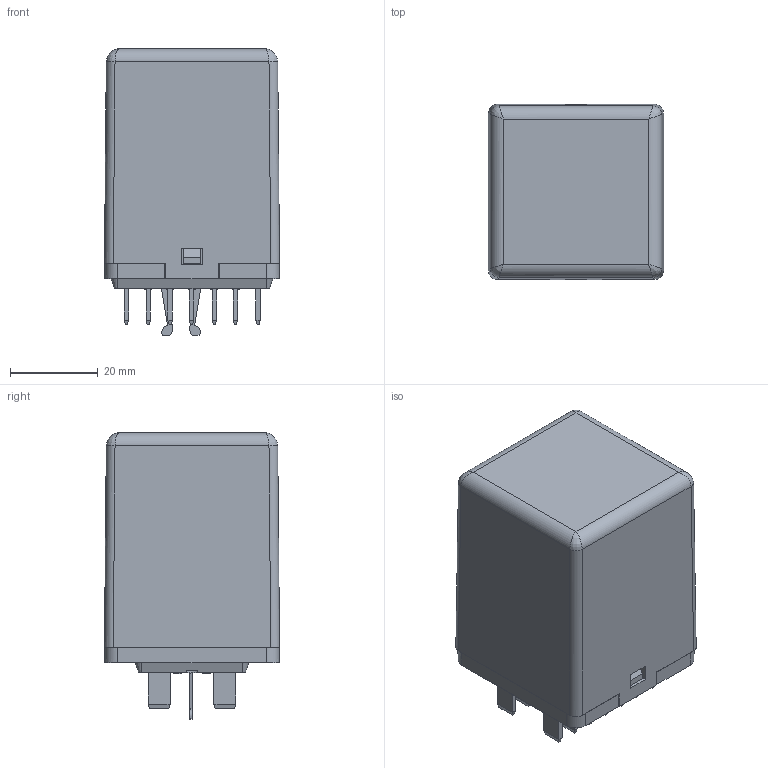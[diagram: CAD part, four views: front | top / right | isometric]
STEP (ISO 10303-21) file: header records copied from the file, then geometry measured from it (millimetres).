
FILE_DESCRIPTION((''),'2;1');
FILE_NAME('I:\TI\Bibliotheek\Inventor\Relais\BD\BD-U200.stp','2011-03-09T08:49:58',('oey'),(''),'Autodesk Inventor 2011','Autodesk Inventor 2011','');
FILE_SCHEMA(('AUTOMOTIVE_DESIGN { 1 0 10303 214 1 1 1 1 }'));
Length unit declared in the file: millimetre
Products named in the file (1): BD-U200
Bounding box: 40 x 40.06 x 65.4 mm (x, y, z)
Volume: 41659.8 mm3; surface area: 44840.7 mm2
Topology: 2 solids, 16 shells, 2285 faces, 6621 edges, 4257 vertices
Faces by surface type: plane 1357, cylinder 641, bspline 144, sphere 70, cone 37, torus 36
Full cylindrical faces by diameter (mm): 0.5 x4, 0.71 x4, 0.82 x10, 1 x1, 1.5 x1, 1.6 x1, 1.7 x2, 2 x9, 2.08 x4, 2.1 x8, 2.224 x1, 2.3 x4, 2.5 x5, 2.6 x4, 2.69 x2, 2.7 x7, 2.85 x1, 3 x6, 3.3 x2, 3.5 x1, 4 x9, 4.5 x2, 5 x2, 7.75 x1, 8.2 x1, 10.2 x2, 21 x1, 22 x1
Entity records: 84632 total; most frequent: CARTESIAN_POINT 21969, ORIENTED_EDGE 12936, DIRECTION 12179, EDGE_CURVE 6468, VECTOR 4409, LINE 4409, VERTEX_POINT 4181, AXIS2_PLACEMENT_3D 3885
